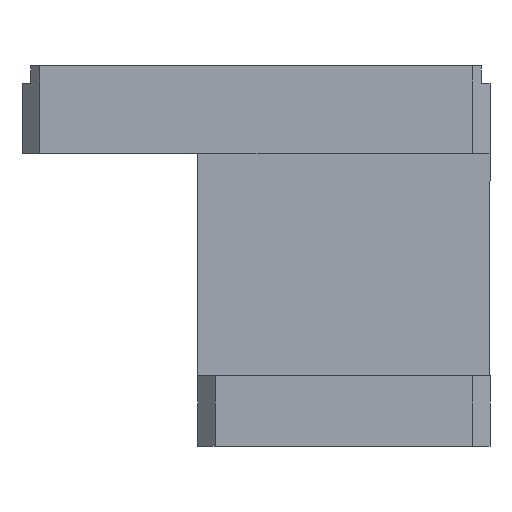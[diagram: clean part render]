
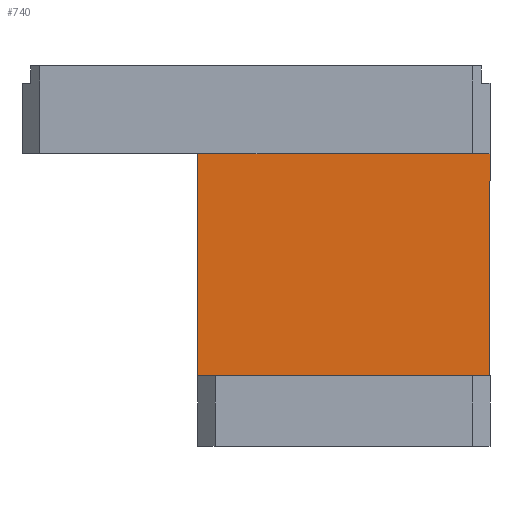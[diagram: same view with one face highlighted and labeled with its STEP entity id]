
A CAD part, front view. The second image highlights one B-rep face of the part: STEP entity #740.
In plain terms, the highlighted planar face has unit normal (0, -1, 0).
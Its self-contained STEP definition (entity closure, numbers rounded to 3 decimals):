
#9 = CARTESIAN_POINT ( 'NONE',  ( 40., -5., 17.5 ) ) ;
#12 = LINE ( 'NONE', #491, #192 ) ;
#65 = VECTOR ( 'NONE', #280, 1000. ) ;
#66 = EDGE_CURVE ( 'NONE', #611, #989, #711, .T. ) ;
#118 = CARTESIAN_POINT ( 'NONE',  ( -51.858, -5., 17.5 ) ) ;
#192 = VECTOR ( 'NONE', #973, 1000. ) ;
#232 = CARTESIAN_POINT ( 'NONE',  ( -10., -5., 17.5 ) ) ;
#239 = DIRECTION ( 'NONE',  ( 1., 0., 0. ) ) ;
#280 = DIRECTION ( 'NONE',  ( 0., 0., 1. ) ) ;
#287 = PLANE ( 'NONE',  #315 ) ;
#315 = AXIS2_PLACEMENT_3D ( 'NONE', #515, #738, #895 ) ;
#386 = VERTEX_POINT ( 'NONE', #1166 ) ;
#414 = FACE_OUTER_BOUND ( 'NONE', #427, .T. ) ;
#427 = EDGE_LOOP ( 'NONE', ( #1242, #589, #891, #812 ) ) ;
#491 = CARTESIAN_POINT ( 'NONE',  ( -10., -5., -20.5 ) ) ;
#507 = CARTESIAN_POINT ( 'NONE',  ( 40., -5., -20.5 ) ) ;
#515 = CARTESIAN_POINT ( 'NONE',  ( -51.858, -5., -20.5 ) ) ;
#582 = EDGE_CURVE ( 'NONE', #386, #746, #1310, .T. ) ;
#589 = ORIENTED_EDGE ( 'NONE', *, *, #1069, .T. ) ;
#611 = VERTEX_POINT ( 'NONE', #9 ) ;
#711 = LINE ( 'NONE', #118, #1454 ) ;
#718 = DIRECTION ( 'NONE',  ( -1., 0., 0. ) ) ;
#724 = EDGE_CURVE ( 'NONE', #746, #611, #1362, .T. ) ;
#738 = DIRECTION ( 'NONE',  ( 0., -1., 0. ) ) ;
#740 = ADVANCED_FACE ( 'NONE', ( #414 ), #287, .T. ) ;
#746 = VERTEX_POINT ( 'NONE', #507 ) ;
#812 = ORIENTED_EDGE ( 'NONE', *, *, #724, .T. ) ;
#891 = ORIENTED_EDGE ( 'NONE', *, *, #582, .T. ) ;
#895 = DIRECTION ( 'NONE',  ( 0., 0., -1. ) ) ;
#973 = DIRECTION ( 'NONE',  ( 0., 0., -1. ) ) ;
#989 = VERTEX_POINT ( 'NONE', #232 ) ;
#1069 = EDGE_CURVE ( 'NONE', #989, #386, #12, .T. ) ;
#1077 = VECTOR ( 'NONE', #239, 1000. ) ;
#1166 = CARTESIAN_POINT ( 'NONE',  ( -10., -5., -20.5 ) ) ;
#1242 = ORIENTED_EDGE ( 'NONE', *, *, #66, .T. ) ;
#1310 = LINE ( 'NONE', #1325, #1077 ) ;
#1325 = CARTESIAN_POINT ( 'NONE',  ( -51.858, -5., -20.5 ) ) ;
#1362 = LINE ( 'NONE', #1483, #65 ) ;
#1454 = VECTOR ( 'NONE', #718, 1000. ) ;
#1483 = CARTESIAN_POINT ( 'NONE',  ( 40., -5., 32.5 ) ) ;
